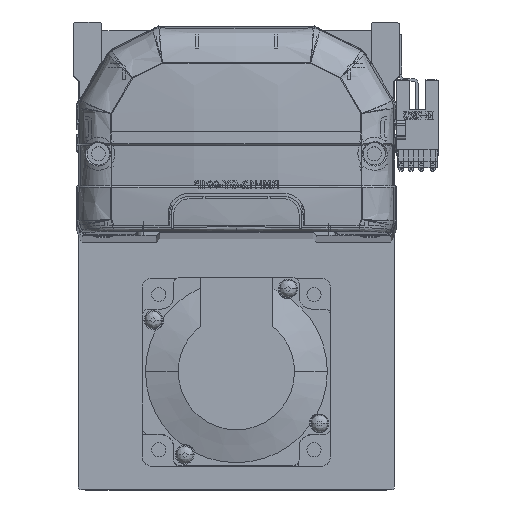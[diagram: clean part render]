
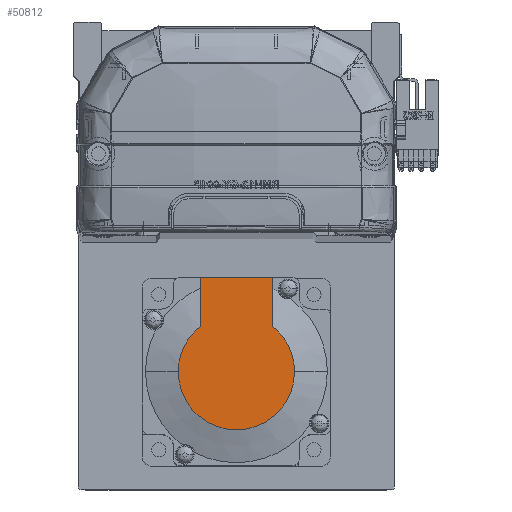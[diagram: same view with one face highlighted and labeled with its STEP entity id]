
A CAD part, top view. The second image highlights one B-rep face of the part: STEP entity #50812.
In plain terms, the highlighted planar face has unit normal (0, 0, 1) as drawn and (-1, 0, 0) by its records, which use the part's own axes.
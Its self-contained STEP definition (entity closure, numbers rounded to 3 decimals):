
#637 = CARTESIAN_POINT ( 'NONE',  ( -79., 0., 0. ) ) ;
#657 = CIRCLE ( 'NONE', #33589, 18.538 ) ;
#1876 = CARTESIAN_POINT ( 'NONE',  ( -79., 0., 0. ) ) ;
#3581 = CARTESIAN_POINT ( 'NONE',  ( -79., 30., 27. ) ) ;
#4227 = LINE ( 'NONE', #53532, #56627 ) ;
#5714 = VERTEX_POINT ( 'NONE', #16170 ) ;
#7824 = VERTEX_POINT ( 'NONE', #28688 ) ;
#9435 = ORIENTED_EDGE ( 'NONE', *, *, #25064, .T. ) ;
#10177 = CARTESIAN_POINT ( 'NONE',  ( -79., 30., 11.45 ) ) ;
#12008 = CARTESIAN_POINT ( 'NONE',  ( -79., 0., 18.538 ) ) ;
#12962 = VERTEX_POINT ( 'NONE', #12008 ) ;
#13986 = CARTESIAN_POINT ( 'NONE',  ( -79., 14.579, 11.45 ) ) ;
#16053 = CIRCLE ( 'NONE', #51307, 18.538 ) ;
#16170 = CARTESIAN_POINT ( 'NONE',  ( -79., 0., -18.538 ) ) ;
#17471 = LINE ( 'NONE', #3581, #51845 ) ;
#19820 = EDGE_LOOP ( 'NONE', ( #9435, #51191, #59153, #27991, #27384, #23490 ) ) ;
#20556 = DIRECTION ( 'NONE',  ( -1., 0., 0. ) ) ;
#23490 = ORIENTED_EDGE ( 'NONE', *, *, #34304, .F. ) ;
#25064 = EDGE_CURVE ( 'NONE', #7824, #28530, #32542, .T. ) ;
#27384 = ORIENTED_EDGE ( 'NONE', *, *, #54555, .F. ) ;
#27732 = CARTESIAN_POINT ( 'NONE',  ( -79., -9.269, 0. ) ) ;
#27931 = DIRECTION ( 'NONE',  ( 0., 0., 1. ) ) ;
#27991 = ORIENTED_EDGE ( 'NONE', *, *, #30266, .T. ) ;
#28064 = DIRECTION ( 'NONE',  ( 0., 0., -1. ) ) ;
#28465 = CARTESIAN_POINT ( 'NONE',  ( -79., 0., 0. ) ) ;
#28530 = VERTEX_POINT ( 'NONE', #29399 ) ;
#28688 = CARTESIAN_POINT ( 'NONE',  ( -79., 30., -11.45 ) ) ;
#29399 = CARTESIAN_POINT ( 'NONE',  ( -79., 14.579, -11.45 ) ) ;
#30266 = EDGE_CURVE ( 'NONE', #12962, #62003, #657, .T. ) ;
#31032 = VECTOR ( 'NONE', #31507, 1000. ) ;
#31507 = DIRECTION ( 'NONE',  ( 0., -1., 0. ) ) ;
#32304 = CIRCLE ( 'NONE', #60204, 18.538 ) ;
#32542 = LINE ( 'NONE', #45519, #31032 ) ;
#32972 = DIRECTION ( 'NONE',  ( -1., 0., 0. ) ) ;
#33589 = AXIS2_PLACEMENT_3D ( 'NONE', #28465, #61738, #28064 ) ;
#34123 = DIRECTION ( 'NONE',  ( 0., 0., -1. ) ) ;
#34132 = AXIS2_PLACEMENT_3D ( 'NONE', #27732, #32972, #27931 ) ;
#34304 = EDGE_CURVE ( 'NONE', #7824, #45052, #17471, .T. ) ;
#35986 = DIRECTION ( 'NONE',  ( 0., 0., -1. ) ) ;
#37160 = PLANE ( 'NONE',  #34132 ) ;
#40384 = DIRECTION ( 'NONE',  ( -1., 0., 0. ) ) ;
#45052 = VERTEX_POINT ( 'NONE', #10177 ) ;
#45519 = CARTESIAN_POINT ( 'NONE',  ( -79., -9.269, -11.45 ) ) ;
#46697 = DIRECTION ( 'NONE',  ( 0., 0., 1. ) ) ;
#50812 = ADVANCED_FACE ( 'NONE', ( #56975 ), #37160, .T. ) ;
#51191 = ORIENTED_EDGE ( 'NONE', *, *, #61686, .T. ) ;
#51307 = AXIS2_PLACEMENT_3D ( 'NONE', #1876, #40384, #35986 ) ;
#51845 = VECTOR ( 'NONE', #46697, 1000. ) ;
#53532 = CARTESIAN_POINT ( 'NONE',  ( -79., 0., 11.45 ) ) ;
#53731 = DIRECTION ( 'NONE',  ( 0., -1., 0. ) ) ;
#54555 = EDGE_CURVE ( 'NONE', #45052, #62003, #4227, .T. ) ;
#56627 = VECTOR ( 'NONE', #53731, 1000. ) ;
#56975 = FACE_OUTER_BOUND ( 'NONE', #19820, .T. ) ;
#57279 = EDGE_CURVE ( 'NONE', #5714, #12962, #16053, .T. ) ;
#59153 = ORIENTED_EDGE ( 'NONE', *, *, #57279, .T. ) ;
#60204 = AXIS2_PLACEMENT_3D ( 'NONE', #637, #20556, #34123 ) ;
#61686 = EDGE_CURVE ( 'NONE', #28530, #5714, #32304, .T. ) ;
#61738 = DIRECTION ( 'NONE',  ( -1., 0., 0. ) ) ;
#62003 = VERTEX_POINT ( 'NONE', #13986 ) ;
